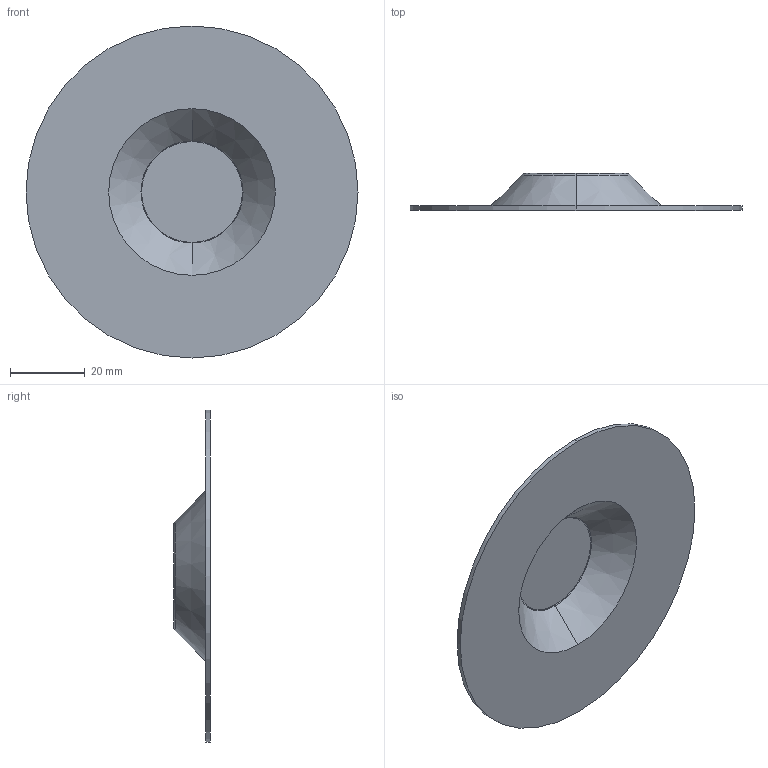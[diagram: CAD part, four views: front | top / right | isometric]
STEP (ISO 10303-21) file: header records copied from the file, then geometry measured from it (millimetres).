
FILE_DESCRIPTION (( 'STEP AP203' ), '1' );
FILE_NAME ('1884803-10.STEP', '2024-11-18T15:44:41', ( '' ), ( '' ), 'SwSTEP 2.0', 'SolidWorks 2024', '' );
FILE_SCHEMA (( 'CONFIG_CONTROL_DESIGN' ));
Length unit declared in the file: inch
Products named in the file (1): 1884803-10
Bounding box: 88.9 x 9.86 x 88.9 mm (x, y, z)
Volume: 8063 mm3; surface area: 13567.1 mm2
Topology: 1 solids, 1 shells, 14 faces, 26 edges, 16 vertices
Faces by surface type: cone 4, torus 4, plane 4, cylinder 2
Entity records: 437 total; most frequent: DIRECTION 76, CARTESIAN_POINT 57, ORIENTED_EDGE 52, AXIS2_PLACEMENT_3D 35, EDGE_CURVE 26, CIRCLE 20, VERTEX_POINT 16, EDGE_LOOP 16
